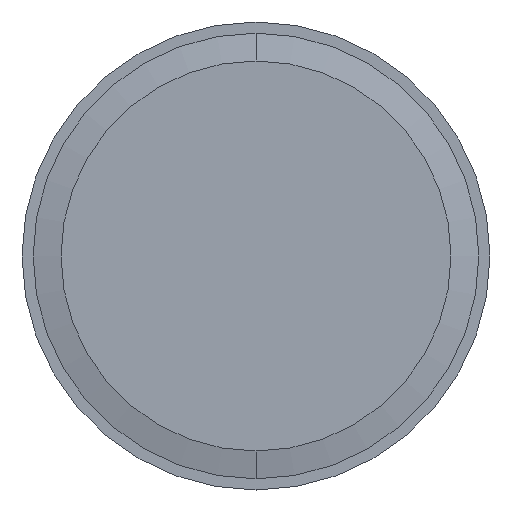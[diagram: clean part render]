
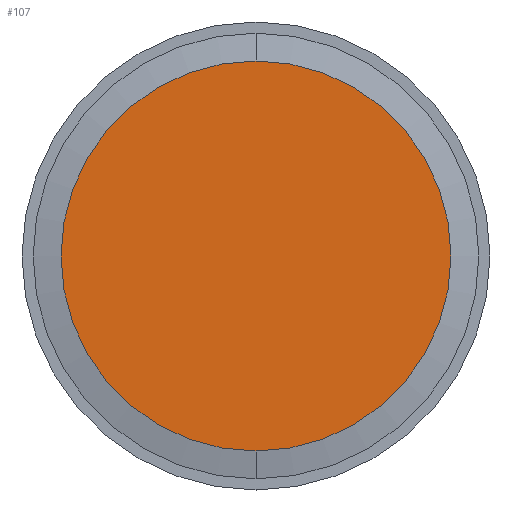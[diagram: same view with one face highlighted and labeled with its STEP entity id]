
A CAD part, front view. The second image highlights one B-rep face of the part: STEP entity #107.
In plain terms, the highlighted planar face has unit normal (0, -1, 0).
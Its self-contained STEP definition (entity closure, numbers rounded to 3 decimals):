
#27 = CARTESIAN_POINT ( 'NONE',  ( 0., 0., 17.5 ) ) ;
#107 = ADVANCED_FACE ( 'NONE', ( #131 ), #166, .F. ) ;
#112 = VERTEX_POINT ( 'NONE', #172 ) ;
#118 = CIRCLE ( 'NONE', #499, 17.5 ) ;
#131 = FACE_OUTER_BOUND ( 'NONE', #203, .T. ) ;
#158 = CARTESIAN_POINT ( 'NONE',  ( 0., 0., 0. ) ) ;
#166 = PLANE ( 'NONE',  #478 ) ;
#172 = CARTESIAN_POINT ( 'NONE',  ( 0., 0., -17.5 ) ) ;
#178 = DIRECTION ( 'NONE',  ( 0., 1., 0. ) ) ;
#184 = DIRECTION ( 'NONE',  ( 0., 0., 1. ) ) ;
#203 = EDGE_LOOP ( 'NONE', ( #344, #393 ) ) ;
#230 = CARTESIAN_POINT ( 'NONE',  ( 0., 0., 0. ) ) ;
#240 = DIRECTION ( 'NONE',  ( 0., -1., 0. ) ) ;
#297 = DIRECTION ( 'NONE',  ( 0., 0., -1. ) ) ;
#344 = ORIENTED_EDGE ( 'NONE', *, *, #367, .T. ) ;
#367 = EDGE_CURVE ( 'NONE', #112, #812, #707, .T. ) ;
#376 = DIRECTION ( 'NONE',  ( 0., 0., -1. ) ) ;
#393 = ORIENTED_EDGE ( 'NONE', *, *, #839, .T. ) ;
#478 = AXIS2_PLACEMENT_3D ( 'NONE', #158, #178, #184 ) ;
#499 = AXIS2_PLACEMENT_3D ( 'NONE', #230, #695, #297 ) ;
#534 = AXIS2_PLACEMENT_3D ( 'NONE', #821, #240, #376 ) ;
#695 = DIRECTION ( 'NONE',  ( 0., -1., 0. ) ) ;
#707 = CIRCLE ( 'NONE', #534, 17.5 ) ;
#812 = VERTEX_POINT ( 'NONE', #27 ) ;
#821 = CARTESIAN_POINT ( 'NONE',  ( 0., 0., 0. ) ) ;
#839 = EDGE_CURVE ( 'NONE', #812, #112, #118, .T. ) ;
